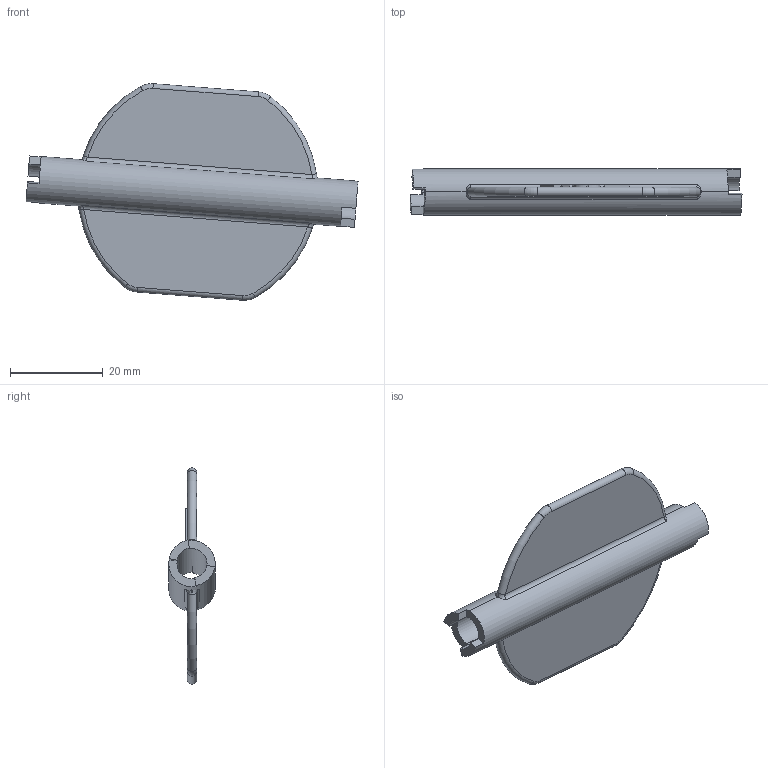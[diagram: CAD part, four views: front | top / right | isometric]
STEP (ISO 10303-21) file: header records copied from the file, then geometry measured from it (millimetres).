
FILE_DESCRIPTION((''),'2;1');
FILE_NAME('0000237115_PRT','2025-11-12T18:36:01',('Wyndorps'),(''),'CREO PARAMETRIC BY PTC INC, 2025010','CREO PARAMETRIC BY PTC INC, 2025010','');
FILE_SCHEMA(('CONFIG_CONTROL_DESIGN'));
Length unit declared in the file: millimetre
Products named in the file (1): 0000237115_PRT
Bounding box: 71.41 x 10 x 46.57 mm (x, y, z)
Volume: 6021.9 mm3; surface area: 6575.2 mm2
Topology: 1 solids, 1 shells, 99 faces, 267 edges, 174 vertices
Faces by surface type: plane 49, extrusion 20, cylinder 14, bspline 8, torus 8
Entity records: 3806 total; most frequent: CARTESIAN_POINT 1399, ORIENTED_EDGE 534, DIRECTION 413, EDGE_CURVE 267, VERTEX_POINT 174, VECTOR 159, LINE 139, AXIS2_PLACEMENT_3D 127
